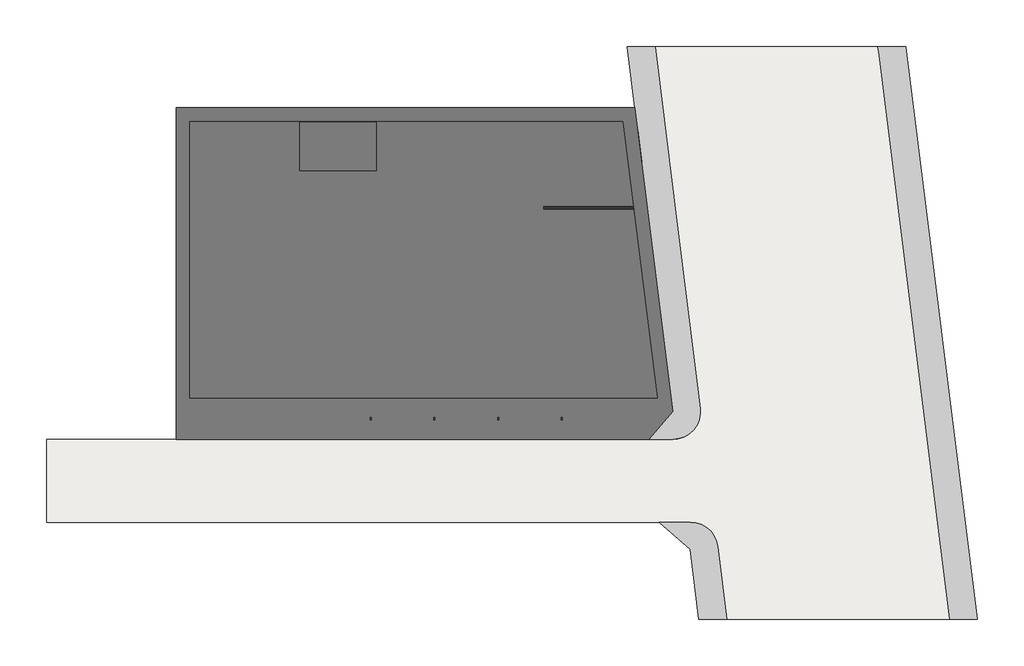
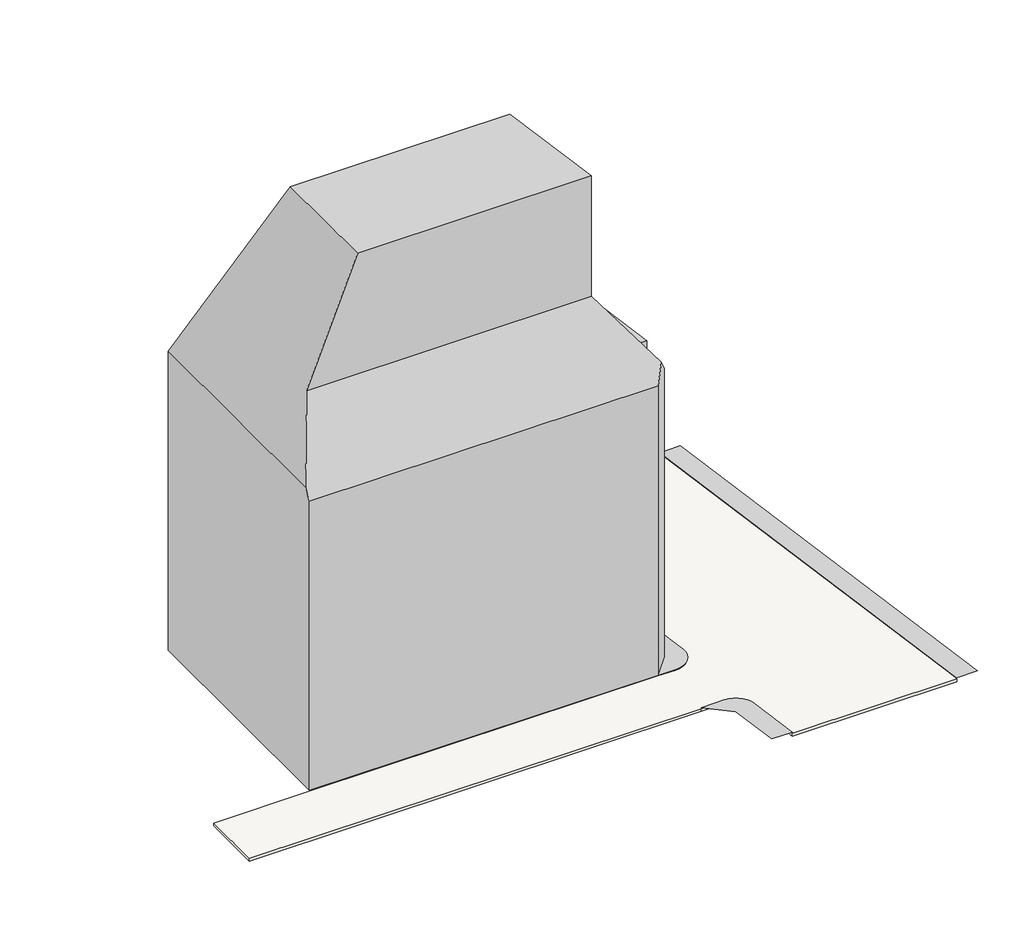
# One storey, incomplete: 10 proxies, 7 members, 3 geographic elements, 3 slabs, 1 wall.
"""IFC4 building model written with IfcOpenShell, lengths in millimetres."""

from ifc_helpers import new_model, si_unit, point, frame, frame_2d, origin, origin_with_axes, place, context, project, spatial, polyline, circle_curve, trimmed, segment, composite_curve, outline, extrude, faceted_brep, triangles, transform, mapped, element, save
from components import generic_models_d69f2043, generic_models_72fe8b9a, generic_models_310be010, generic_models_a66b474c, geographic_element_4fc74e1d, geographic_element_98545d6c, geographic_element_b699ae96, member_70x150_b56cabd7, member_70x150_2e5d5b14, member_70x150_666b8813, member_70x150_cb2c3fb9, member_70x150_10f8ced3

model = new_model("IFC4")

# Units and contexts
model_context = context("Model", 3, world=origin())
ifc_project = project(units=[si_unit("LENGTHUNIT", "METRE", prefix="MILLI")], contexts=[model_context])

# Site, building, storey
site = spatial("IfcSite", under=ifc_project)
building = spatial("IfcBuilding", under=site)
storey = spatial("IfcBuildingStorey", under=building, Name="設計GL", Elevation=0.0)

# Proxies
placement = place(None, origin())
element("IfcBuildingElementProxy", 1, Name="Building Element Proxy", at=placement, inside=storey, context=model_context, shape_type="Tessellation", body=[
    triangles([(3304.0212914, 17699.6870728, 0.0), (4271.7035042, 9967.372998, 0.0), (6057.2732941, -4300.3130951, 0.0), (4304.0215897, -6300.3131104, 0.0), (6057.2732941, -6300.3131104, 0.0), (6477.9325012, -6255.5745621, 0.0), (6879.7719269, -6123.3587952, 0.0), (7244.8135986, -5909.5828903, 0.0), (7556.7259552, -5623.8090546, 0.0), (7801.5540344, -5278.8242981, 0.0), (7968.3455978, -4890.0613998, 0.0), (8049.6371475, -4474.9140656, 0.0), (8041.7928589, -4051.9549988, 0.0), (6123.4314651, 11276.8093506, 0.0), (4763.967643, 22139.6765259, 0.0), (2748.3662544, 22139.6765259, 0.0)], [[13, 2, 3], [5, 3, 4], [14, 2, 13], [16, 1, 15], [14, 15, 1], [1, 2, 14], [3, 5, 6], [7, 8, 3], [9, 3, 8], [9, 10, 3], [12, 3, 11], [3, 12, 13], [10, 11, 3], [6, 7, 3]], closed=False),
])
element("IfcBuildingElementProxy", 2, Name="Building Element Proxy", at=placement, inside=storey, context=model_context, shape_type="Tessellation", body=[
    triangles([(9293.2711212, -14051.9550751, 0.0), (9200.0797165, -13650.0226318, 0.0), (9026.3961319, -13275.7664063, 0.0), (8779.6117767, -12945.1121704, 0.0), (8470.2300797, -12672.1346466, 0.0), (8111.4176788, -12468.4494049, 0.0), (7718.4445724, -12342.7256836, 0.0), (7308.0359024, -12300.3131561, 0.0), (5058.455191, -12300.3131561, 0.0), (7306.8133026, -14284.8315582, 0.0), (7938.3683578, -19331.3002716, 0.0), (9953.969165, -19331.3002716, 0.0)], [[6, 10, 5], [1, 10, 11], [10, 6, 7], [10, 8, 9], [8, 10, 7], [2, 10, 1], [10, 2, 3], [4, 5, 10], [10, 3, 4], [1, 11, 12]], closed=False),
])
element("IfcBuildingElementProxy", 3, Name="Building Element Proxy", at=placement, inside=storey, context=model_context, shape_type="Tessellation", body=[
    triangles([(26078.777948, -19331.3002716, 0.0), (28094.3804993, -19331.3002716, 0.0), (22904.3786865, 22139.6765259, 0.0), (21485.0629944, 22139.6765259, 0.0), (20888.7761353, 22139.6765259, 0.0), (20937.256897, 21752.3001709, 0.0)], [[5, 6, 4], [4, 6, 3], [3, 1, 2], [1, 3, 6]], closed=False),
])
element("IfcBuildingElementProxy", 4, Name="o_外形 : o_外形", ObjectType="o_外形 : o_外形", at=placement, inside=storey, context=model_context, shape_type="SweptSolid", body=[
    extrude(outline(polyline([(2421.3686682, 16699.6868987), (4924.3248628, -3300.3131013), (-28895.9784025, -3300.3131013), (-28895.9784025, 16699.6868987), (2421.3686682, 16699.6868987)])), origin_with_axes(), (0.0, 0.0, 1.0), 32600.0),
])
element("IfcBuildingElementProxy", 5, Name="i_コア : i_コア", ObjectType="i_コア : i_コア", at=placement, inside=storey, context=model_context, shape_type="SweptSolid", body=[
    extrude(outline(polyline([(-9395.9784025, 16649.6868987), (-9395.9784025, 13649.6868987), (-15395.9784025, 13649.6868987), (-15395.9784025, 16649.6868987), (-9395.9784025, 16649.6868987)])), origin_with_axes(), (0.0, 0.0, 1.0), 32600.0),
])
element("IfcBuildingElementProxy", 6, Name="i_コア1 : i_コア", ObjectType="i_コア1 : i_コア", at=placement, inside=storey, context=model_context, shape_type="SweptSolid", body=[
    extrude(outline(polyline([(1749.0215975, 16044.6868987), (1749.0215975, 13649.6868987), (-3395.9784025, 13649.6868987), (-3395.9784025, 16044.6868987), (1749.0215975, 16044.6868987)])), origin_with_axes(), (0.0, 0.0, 1.0), 32600.0),
])
element("IfcBuildingElementProxy", 7, Name="i_コア2 : i_コア", ObjectType="i_コア2 : i_コア", at=placement, inside=storey, context=model_context, shape_type="SweptSolid", body=[
    extrude(outline(polyline([(-15395.9784025, 16649.6868987), (-15395.9784025, 13149.6868987), (-20945.9784025, 13149.6868987), (-20945.9784025, 16649.6868987), (-15395.9784025, 16649.6868987)])), origin_with_axes(), (0.0, 0.0, 1.0), 32600.0),
])
generic_models_shape = generic_models_d69f2043(model_context)
element("IfcBuildingElementProxy", 8, Name="斜線モデル : 斜線モデル", ObjectType="斜線モデル : 斜線モデル", at=placement, inside=storey, context=model_context, shape_type="MappedRepresentation", body=[
    mapped(generic_models_shape, transform((0.0, 0.0, 0.0), x_axis=(1.0, 0.0, 0.0), y_axis=(0.0, 1.0, 0.0), z_axis=(0.0, 0.0, 1.0))),
])
generic_models_2_shape = generic_models_72fe8b9a(model_context)
element("IfcBuildingElementProxy", 9, Name="門型 : 門型", ObjectType="門型 : 門型", at=placement, inside=storey, context=model_context, shape_type="MappedRepresentation", body=[
    mapped(generic_models_2_shape, transform((0.0, 0.0, 0.0), x_axis=(1.0, 0.0, 0.0), y_axis=(0.0, 1.0, 0.0), z_axis=(0.0, 0.0, 1.0))),
])
generic_models_3_shape = generic_models_310be010(model_context)
generic_models_4_shape = generic_models_a66b474c(model_context)
element("IfcBuildingElementProxy", 10, Name="水平ルーバー（Ｌ型） : ｈ50ｄ200＠200", ObjectType="水平ルーバー（Ｌ型） : ｈ50ｄ200＠200", at=placement, inside=storey, context=model_context, shape_type="MappedRepresentation", body=[
    mapped(generic_models_3_shape, transform((1949.0215975, 15944.6868987, 0.0), x_axis=(0.0, -1.0, 0.0), y_axis=(1.0, 0.0, 0.0), z_axis=(0.0, 0.0, 1.0))),
    mapped(generic_models_4_shape, transform((1949.0215975, 15944.6868987, 0.0), x_axis=(0.0, -1.0, 0.0), y_axis=(1.0, 0.0, 0.0), z_axis=(0.0, 0.0, 1.0))),
])

# Geographic elements
geographic_element_shape = geographic_element_4fc74e1d(model_context)
element("IfcGeographicElement", 11, ObjectType="r 低木密植 : 低木密植", at=placement, inside=storey, context=model_context, shape_type="MappedRepresentation", body=[
    mapped(geographic_element_shape, transform((3491.7431358, 16199.6868987, 0.0), x_axis=(-1.0, 0.0, 0.0), y_axis=(0.0, -1.0, 0.0), z_axis=(0.0, 0.0, 1.0))),
])
geographic_element_2_shape = geographic_element_98545d6c(model_context)
element("IfcGeographicElement", 12, ObjectType="r 低木密植 : 低木密植", at=placement, inside=storey, context=model_context, shape_type="MappedRepresentation", body=[
    mapped(geographic_element_2_shape, transform((3798.3552696, 13749.6868987, 0.0), x_axis=(-0.11213725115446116, 0.9936927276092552, 0.0), y_axis=(-0.9936927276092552, -0.11213725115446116, 0.0), z_axis=(0.0, 0.0, 1.0))),
])
geographic_element_3_shape = geographic_element_b699ae96(model_context)
element("IfcGeographicElement", 13, ObjectType="r 低木密植 : 低木密植", at=placement, inside=storey, context=model_context, shape_type="MappedRepresentation", body=[
    mapped(geographic_element_3_shape, transform((1954.0215975, 13749.6868987, 0.0), x_axis=(1.0, 0.0, 0.0), y_axis=(0.0, 1.0, 0.0), z_axis=(0.0, 0.0, 1.0))),
])

# Members
member_70x150_shape = member_70x150_b56cabd7(model_context)
element("IfcMember", 14, ObjectType="長方形のマリオン : 70x150", at=placement, inside=storey, context=model_context, shape_type="MappedRepresentation", body=[
    mapped(member_70x150_shape, transform((-1945.9784025, -5250.3131013, 100.0), x_axis=(1.0, 0.0, 0.0), y_axis=(0.0, -0.9272437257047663, 0.3744583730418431), z_axis=(0.0, -0.3744583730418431, -0.9272437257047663))),
])
member_70x150_2_shape = member_70x150_2e5d5b14(model_context)
element("IfcMember", 15, ObjectType="長方形のマリオン : 70x150", at=placement, inside=storey, context=model_context, shape_type="MappedRepresentation", body=[
    mapped(member_70x150_2_shape, transform((-15775.9784025, -5250.3131013, 100.0), x_axis=(0.0, -0.3744583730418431, -0.9272437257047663), y_axis=(0.0, -0.9272437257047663, 0.3744583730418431), z_axis=(-1.0, 0.0, 0.0))),
])
element("IfcMember", 16, ObjectType="長方形のマリオン : 70x150", at=placement, inside=storey, context=model_context, shape_type="MappedRepresentation", body=[
    mapped(member_70x150_2_shape, transform((-6544.3117358, -5250.3131013, 100.0), x_axis=(0.0, -0.37445837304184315, -0.9272437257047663), y_axis=(0.0, -0.9272437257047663, 0.37445837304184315), z_axis=(-1.0, 0.0, 0.0))),
])
member_70x150_3_shape = member_70x150_666b8813(model_context)
element("IfcMember", 17, ObjectType="長方形のマリオン : 70x150", at=placement, inside=storey, context=model_context, shape_type="MappedRepresentation", body=[
    mapped(member_70x150_3_shape, transform((-6579.3117358, -5250.3131013, 100.0), x_axis=(1.0, 0.0, 0.0), y_axis=(0.0, -0.9272437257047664, 0.3744583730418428), z_axis=(0.0, -0.3744583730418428, -0.9272437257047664))),
])
element("IfcMember", 18, ObjectType="長方形のマリオン : 70x150", at=placement, inside=storey, context=model_context, shape_type="MappedRepresentation", body=[
    mapped(member_70x150_3_shape, transform((-11212.6450692, -5250.3131013, 100.0), x_axis=(1.0, 0.0, 0.0), y_axis=(0.0, -0.9272437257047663, 0.3744583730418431), z_axis=(0.0, -0.3744583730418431, -0.9272437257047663))),
])
member_70x150_4_shape = member_70x150_cb2c3fb9(model_context)
element("IfcMember", 19, ObjectType="長方形のマリオン : 70x150", at=placement, inside=storey, context=model_context, shape_type="MappedRepresentation", body=[
    mapped(member_70x150_4_shape, transform((-11177.6450692, -5250.3131013, 100.0), x_axis=(0.0, -0.3744583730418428, -0.9272437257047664), y_axis=(0.0, -0.9272437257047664, 0.3744583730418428), z_axis=(-1.0, 0.0, 0.0))),
])
member_70x150_5_shape = member_70x150_10f8ced3(model_context)
element("IfcMember", 20, ObjectType="長方形のマリオン : 70x150", at=placement, inside=storey, context=model_context, shape_type="MappedRepresentation", body=[
    mapped(member_70x150_5_shape, transform((-15845.9784025, -4664.0730705, 1551.663067), x_axis=(-1.0, 0.0, 0.0), y_axis=(0.0, -0.9272437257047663, 0.3744583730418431), z_axis=(0.0, 0.3744583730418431, 0.9272437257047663))),
])

# Slabs
element("IfcSlab", 21, ObjectType="道路", at=placement, inside=storey, context=model_context, shape_type="SweptSolid", body=[
    extrude(outline(composite_curve([segment(polyline([(-29895.9785788, -6300.3132206), (4304.0214212, -6300.3132206), (6057.2733723, -6300.3132206)]), True, "CONTINUOUS"), segment(trimmed(circle_curve(frame_2d((6057.2733102, -4300.3133048)), 1999.9999158), [point((6057.2733723, -6300.3132206))], [point((8041.7928708, -4051.9551425))], True, "CARTESIAN"), True, "CONTINUOUS"), segment(polyline([(8041.7928708, -4051.9551425), (4763.9675217, 22139.6769092), (20888.7765257, 22139.6769092), (26078.7785229, -19331.3005569), (9953.9695189, -19331.3005569), (9293.2710035, -14051.9551424)]), True, "CONTINUOUS"), segment(trimmed(circle_curve(frame_2d((7308.7513734, -14300.3134274)), 2000.0), [point((9293.2710035, -14051.9551424))], [point((7308.0356737, -12300.3135555))], True, "CARTESIAN"), True, "CONTINUOUS"), segment(polyline([(7308.0356737, -12300.3135555), (5058.4554598, -12300.3135555), (-39264.687591, -12300.3135555), (-39264.687591, -6300.3132206), (-29895.9785788, -6300.3132206)]), True, "CONTINUOUS")], self_intersect=False)), frame((0.0, 0.0, -400.0), z_axis=(0.0, 0.0, 1.0), x_axis=(1.0, 0.0, 0.0)), (0.0, 0.0, 1.0), 300.0),
])
element("IfcSlab", 22, ObjectType="芝生", at=placement, inside=storey, context=model_context, shape_type="SweptSolid", body=[
    extrude(outline(polyline([(5406.7103509, 92.7548182), (5952.4700694, -4268.1662374), (4258.7000601, -6200.3135097), (2839.0995496, -6200.3135097), (2839.0995496, 92.7548182), (5406.7103509, 92.7548182)])), origin_with_axes(), (0.0, 0.0, 1.0), 50.0),
])
element("IfcSlab", 23, ObjectType="芝生", at=placement, inside=storey, context=model_context, shape_type="SweptSolid", body=[
    extrude(outline(polyline([(1949.0215975, 16144.6868987), (3397.8462091, 16144.6868987), (3685.0604324, 13849.6868987), (1949.0215975, 13849.6868987), (1949.0215975, 16144.6868987)])), origin_with_axes(), (0.0, 0.0, 1.0), 50.0),
])

# Wall
element("IfcWall", 24, ObjectType="標準200", at=placement, inside=storey, context=model_context, shape_type="Brep", body=[
    faceted_brep([(-3295.9784025, 10349.6868987, 0.0), (3204.0215975, 10349.6868987, 0.0), (3204.0215975, 10349.6868987, 7600.0), (-3295.9784025, 10349.6868987, 7600.0), (-3295.9784025, 10349.6868987, 4600.0), (-3295.9784025, 10349.6868987, 100.0), (-3295.9784025, 10549.6868987, 0.0), (-3295.9784025, 10549.6868987, 100.0), (-3295.9784025, 10549.6868987, 4600.0), (-3295.9784025, 10549.6868987, 7600.0), (-2945.9784025, 10549.6868987, 7600.0), (1154.0215975, 10549.6868987, 7600.0), (1954.0215975, 10549.6868987, 7600.0), (2054.0215975, 10549.6868987, 7600.0), (3204.0215975, 10549.6868987, 7600.0), (3204.0215975, 10549.6868987, 0.0), (2054.0215975, 10549.6868987, 0.0), (1154.0215975, 10549.6868987, 0.0), (-2945.9784025, 10549.6868987, 0.0), (-3295.9784025, 10449.6868987, 0.0), (-3295.9784025, 10449.6868987, 7600.0)], [[[0, 1, 2, 3, 4, 5]], [[6, 7, 8, 9, 10, 11, 12, 13, 14, 15, 16, 17, 18]], [[1, 0, 19, 6, 18, 17, 16, 15]], [[2, 1, 15, 14]], [[3, 2, 14, 13, 12, 11, 10, 9, 20]], [[0, 5, 4, 3, 20, 9, 8, 7, 6, 19]]]),
])

save(model, "model.ifc")
